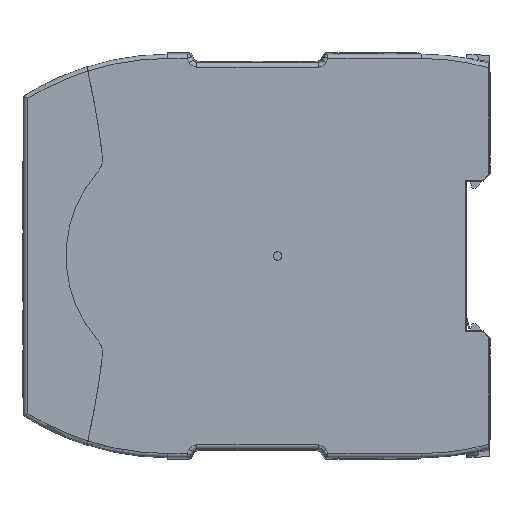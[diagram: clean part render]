
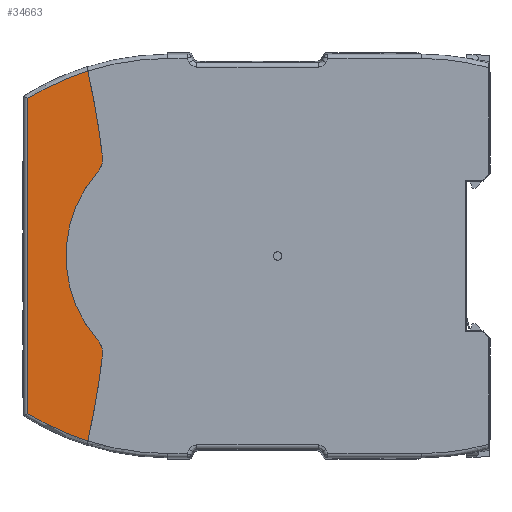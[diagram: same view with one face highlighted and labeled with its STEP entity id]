
A CAD part, left-side view. The second image highlights one B-rep face of the part: STEP entity #34663.
In plain terms, the highlighted planar face has unit normal (-1, 0, 0).
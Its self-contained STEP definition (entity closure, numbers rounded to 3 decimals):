
#676=CARTESIAN_POINT('',(-11.25,94.842,-43.697));
#1276=CARTESIAN_POINT('',(-11.25,94.842,43.697));
#3639=CARTESIAN_POINT('',(-11.25,76.01,-15.939));
#3640=DIRECTION('',(-1.,0.,0.));
#3641=DIRECTION('',(0.,0.301,0.954));
#3642=AXIS2_PLACEMENT_3D('',#3639,#3640,#3641);
#3686=CARTESIAN_POINT('',(-11.25,96.374,-23.021));
#3687=DIRECTION('',(-1.,0.,0.));
#3688=DIRECTION('',(0.,-0.993,-0.118));
#3689=AXIS2_PLACEMENT_3D('',#3686,#3687,#3688);
#3694=CARTESIAN_POINT('',(-11.25,290.01,0.));
#3695=DIRECTION('',(1.,0.,0.));
#3696=DIRECTION('',(0.,-0.993,-0.118));
#3697=AXIS2_PLACEMENT_3D('',#3694,#3695,#3696);
#3702=DIRECTION('',(0.,0.,-1.));
#3703=VECTOR('',#3702,74.369);
#3704=CARTESIAN_POINT('',(-11.25,109.01,37.185));
#3705=LINE('',#3704,#3703);
#3709=CARTESIAN_POINT('',(-11.25,290.01,0.));
#3710=DIRECTION('',(1.,0.,0.));
#3711=DIRECTION('',(0.,-0.976,0.218));
#3712=AXIS2_PLACEMENT_3D('',#3709,#3710,#3711);
#3717=CARTESIAN_POINT('',(-11.25,96.374,23.021));
#3718=DIRECTION('',(-1.,0.,0.));
#3719=DIRECTION('',(0.,-0.753,-0.658));
#3720=AXIS2_PLACEMENT_3D('',#3717,#3718,#3719);
#3725=CARTESIAN_POINT('',(-11.25,70.01,0.));
#3726=DIRECTION('',(1.,0.,0.));
#3727=DIRECTION('',(0.,0.753,-0.658));
#3728=AXIS2_PLACEMENT_3D('',#3725,#3726,#3727);
#3771=CARTESIAN_POINT('',(-11.25,76.01,15.939));
#3772=DIRECTION('',(-1.,0.,0.));
#3773=DIRECTION('',(0.,0.528,-0.849));
#3774=AXIS2_PLACEMENT_3D('',#3771,#3772,#3773);
#26986=VERTEX_POINT('',#676);
#26992=CARTESIAN_POINT('',(-11.25,109.01,37.185));
#26993=CARTESIAN_POINT('',(-11.25,109.01,-37.185));
#26994=VERTEX_POINT('',#26992);
#26995=VERTEX_POINT('',#26993);
#26997=VERTEX_POINT('',#1276);
#27014=CARTESIAN_POINT('',(-11.25,91.409,-23.611));
#27015=CARTESIAN_POINT('',(-11.25,92.607,-19.732));
#27016=VERTEX_POINT('',#27014);
#27017=VERTEX_POINT('',#27015);
#27018=CARTESIAN_POINT('',(-11.25,92.607,19.732));
#27019=CARTESIAN_POINT('',(-11.25,91.409,23.611));
#27020=VERTEX_POINT('',#27018);
#27021=VERTEX_POINT('',#27019);
#34644=CARTESIAN_POINT('',(-11.25,0.01,0.));
#34645=DIRECTION('',(-1.,0.,0.));
#34646=DIRECTION('',(0.,0.,1.));
#34647=AXIS2_PLACEMENT_3D('',#34644,#34645,#34646);
#34648=PLANE('',#34647);
#34650=ORIENTED_EDGE('',*,*,#34649,.F.);
#34651=ORIENTED_EDGE('',*,*,#31781,.T.);
#34653=ORIENTED_EDGE('',*,*,#34652,.F.);
#34654=ORIENTED_EDGE('',*,*,#34609,.F.);
#34655=ORIENTED_EDGE('',*,*,#34628,.F.);
#34656=ORIENTED_EDGE('',*,*,#32283,.T.);
#34658=ORIENTED_EDGE('',*,*,#34657,.F.);
#34660=ORIENTED_EDGE('',*,*,#34659,.F.);
#34661=EDGE_LOOP('',(#34650,#34651,#34653,#34654,#34655,#34656,#34658,#34660));
#34662=FACE_OUTER_BOUND('',#34661,.F.);
#3643=CIRCLE('',#3642,62.539);
#3690=CIRCLE('',#3689,5.);
#3698=CIRCLE('',#3697,200.);
#3713=CIRCLE('',#3712,200.);
#3721=CIRCLE('',#3720,5.);
#3729=CIRCLE('',#3728,30.);
#3775=CIRCLE('',#3774,62.539);
#31781=EDGE_CURVE('',#27016,#26986,#3698,.T.);
#32283=EDGE_CURVE('',#26997,#27021,#3713,.T.);
#34609=EDGE_CURVE('',#26994,#26995,#3705,.T.);
#34628=EDGE_CURVE('',#26997,#26994,#3643,.T.);
#34649=EDGE_CURVE('',#27016,#27017,#3690,.T.);
#34652=EDGE_CURVE('',#26995,#26986,#3775,.T.);
#34657=EDGE_CURVE('',#27020,#27021,#3721,.T.);
#34659=EDGE_CURVE('',#27017,#27020,#3729,.T.);
#34663=ADVANCED_FACE('',(#34662),#34648,.T.);
